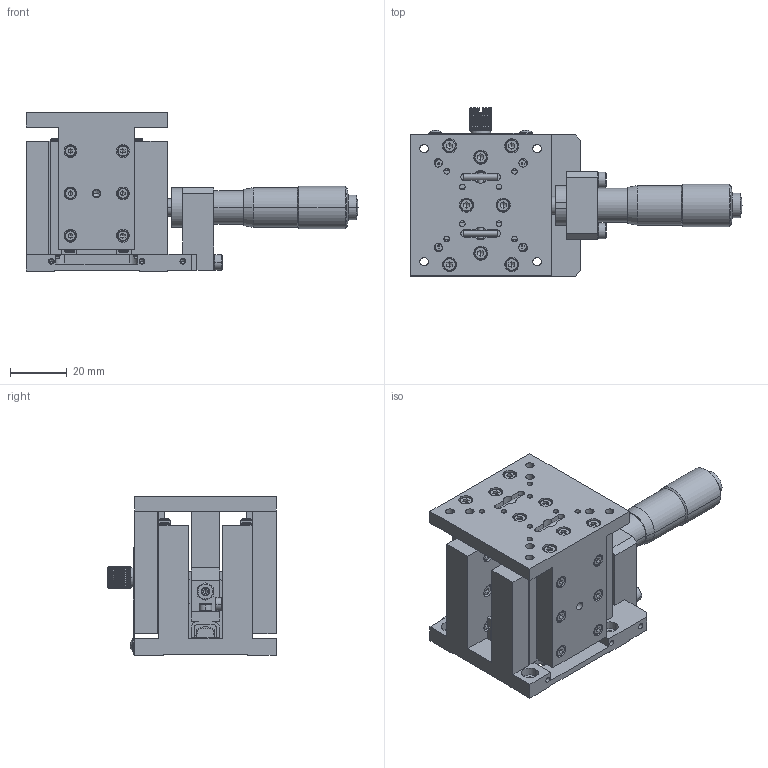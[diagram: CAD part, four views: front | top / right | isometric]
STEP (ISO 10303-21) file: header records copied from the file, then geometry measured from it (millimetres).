
FILE_DESCRIPTION( (''), '2;1');
FILE_NAME ('ZM05A-C1S-R.stp','2024-08-09T10:55:26',(''),(''),'spGate 20.6.2 (****-****-****-****)','','');
FILE_SCHEMA (('AUTOMOTIVE_DESIGN'));
Length unit declared in the file: millimetre
Products named in the file (3): Assembly; ZM05A-C1S-R-prt0; ZM05A-C1S-R-prt1
Assembly tree (2 placements, depth 2):
  Assembly
    ZM05A-C1S-R-prt0
    ZM05A-C1S-R-prt1
Bounding box: 117.5 x 59.5 x 56 mm (x, y, z)
Volume: 110682.8 mm3; surface area: 50430.7 mm2
Topology: 2 solids, 2 shells, 2165 faces, 5087 edges, 2978 vertices
Faces by surface type: plane 1263, cylinder 450, bspline 444, sphere 8
Entity records: 104845 total; most frequent: CARTESIAN_POINT 18013, ORIENTED_EDGE 9894, DIRECTION 8771, COLOUR_RGB 7114, PRESENTATION_STYLE_ASSIGNMENT 7114, STYLED_ITEM 7114, EDGE_CURVE 4947, DRAUGHTING_PRE_DEFINED_CURVE_FONT 4947
